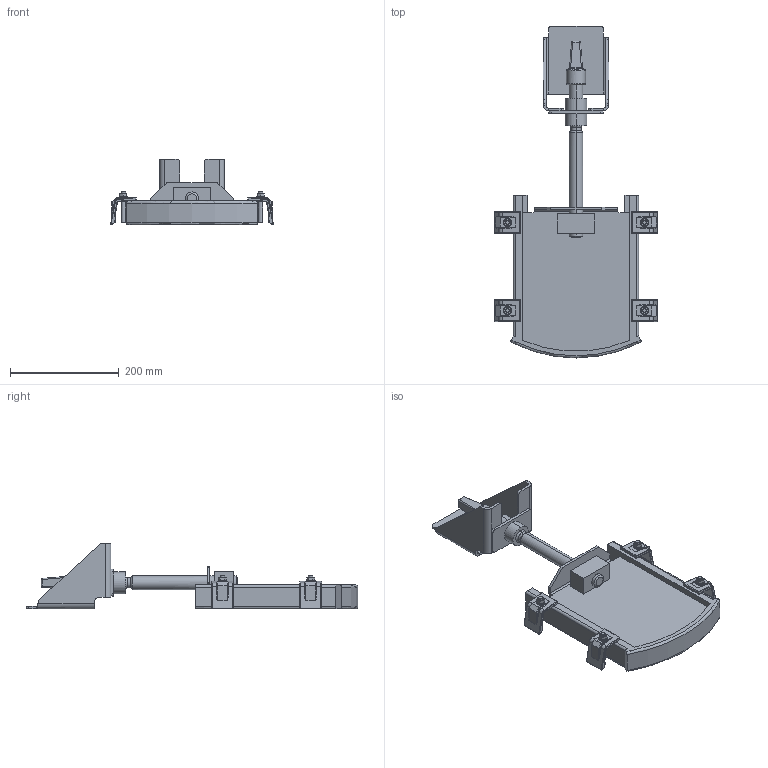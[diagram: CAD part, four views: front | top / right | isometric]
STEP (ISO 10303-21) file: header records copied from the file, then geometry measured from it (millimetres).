
FILE_DESCRIPTION (( 'STEP AP214' ), '1' );
FILE_NAME ('LW 150 gerad betoniert.STEP', '2022-05-18T12:42:16', ( '' ), ( '' ), 'SwSTEP 2.0', 'SolidWorks 2021', '' );
FILE_SCHEMA (( 'AUTOMOTIVE_DESIGN' ));
Length unit declared in the file: millimetre
Products named in the file (1): LW 150 gerad betoniert
Bounding box: 299.57 x 610 x 121 mm (x, y, z)
Volume: 1488917 mm3; surface area: 408384.5 mm2
Topology: 1 solids, 1 shells, 761 faces, 1776 edges, 994 vertices
Faces by surface type: cylinder 283, plane 250, sphere 60, cone 58, torus 56, bspline 54
Entity records: 31327 total; most frequent: CARTESIAN_POINT 6554, DIRECTION 3588, ORIENTED_EDGE 3432, EDGE_CURVE 1716, AXIS2_PLACEMENT_3D 1404, VERTEX_POINT 986, EDGE_LOOP 800, VECTOR 780
